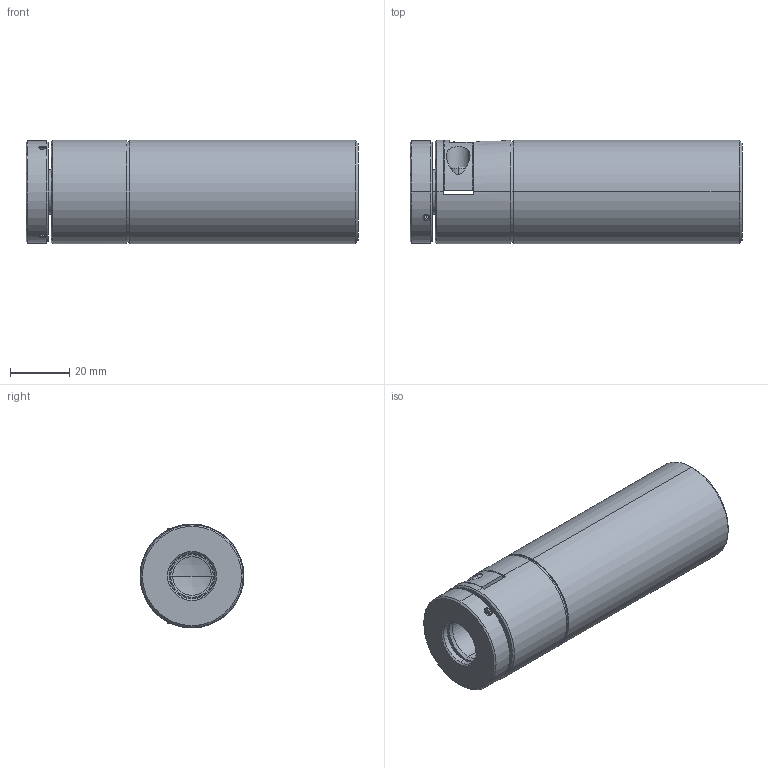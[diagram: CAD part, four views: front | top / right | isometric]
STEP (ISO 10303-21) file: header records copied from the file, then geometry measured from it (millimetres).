
FILE_DESCRIPTION (( 'STEP AP214' ), '1' );
FILE_NAME ('PT-P00615.STEP', '2018-09-19T09:24:52', ( '' ), ( '' ), 'SwSTEP 2.0', 'SolidWorks 2014', '' );
FILE_SCHEMA (( 'AUTOMOTIVE_DESIGN' ));
Length unit declared in the file: millimetre
Products named in the file (1): PT-P00615
Bounding box: 112 x 35 x 35 mm (x, y, z)
Surface area: 21223 mm2 (no closed solid volume)
Topology: 0 solids, 18 shells, 176 faces, 552 edges, 388 vertices
Faces by surface type: plane 76, cylinder 56, cone 33, torus 6, bspline 3, sphere 2
Entity records: 8533 total; most frequent: CARTESIAN_POINT 1801, DIRECTION 1011, ORIENTED_EDGE 885, EDGE_CURVE 546, VERTEX_POINT 388, AXIS2_PLACEMENT_3D 387, VECTOR 237, LINE 237
